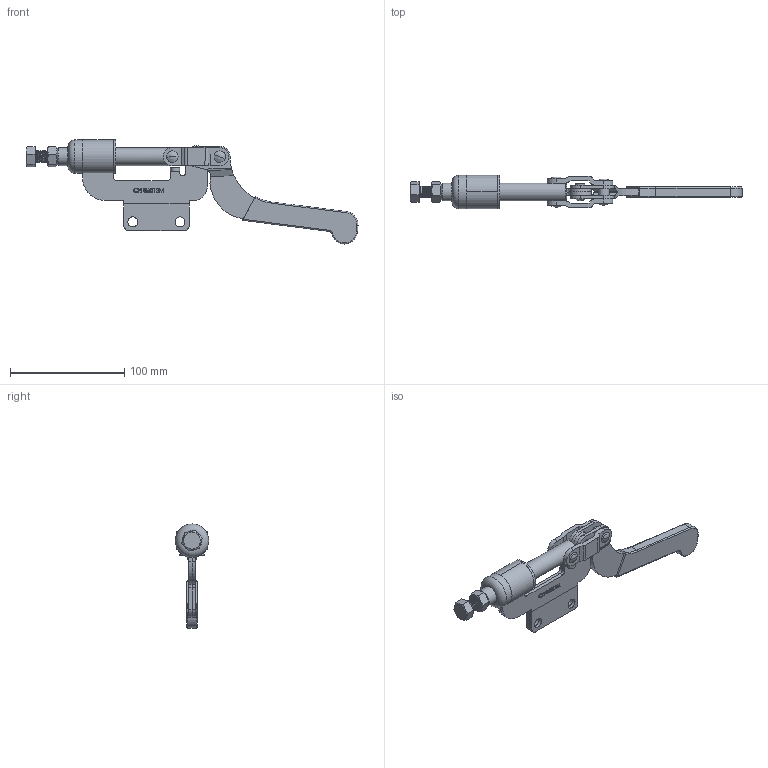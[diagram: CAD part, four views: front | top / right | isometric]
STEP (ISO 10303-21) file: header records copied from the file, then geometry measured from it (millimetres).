
FILE_DESCRIPTION(/* description */ ('STEP AP203'),/* implementation_level */ '2;1');
FILE_NAME(/* name */ 'D:\Vault_2016\Projekty\STRONA\Push-pull clamp\CH-36012M\CH-36012M_OTWARTY.stp',/* time_stamp */ '2019-01-11T11:05:47+01:00',/* author */ ('user'),/* organization */ ('Î¢ÈíÖÐ¹ú'),/* preprocessor_version */ 'ST-DEVELOPER v17.2',/* originating_system */ 'Autodesk Inventor 2019',/* authorisation */ '');
FILE_SCHEMA (('AUTOMOTIVE_DESIGN { 1 0 10303 214 3 1 1 }'));
Length unit declared in the file: millimetre
Products named in the file (13): CH-36012M_OTWARTY; CH-36010M-11; CH-36010M-08; CH-36012M-01 BASE; CH-36010M-03 HANDLE; CH-36010M-02 CREST STALK; CH-36010M-05 LEAD SET; CH-SA-105015 SPINDLE SUPPLIED; CH-36010M-10; M10 Nut; CH-36010M-09; CH-36010M-07; CH-36010M-04 CONNECTING-PLATE
Assembly tree (13 placements, depth 2):
  CH-36012M_OTWARTY
    CH-36010M-04 CONNECTING-PLATE  x2
    CH-36010M-11
    CH-36010M-08
    CH-36012M-01 BASE
    CH-36010M-03 HANDLE
    CH-36010M-02 CREST STALK
    CH-36010M-05 LEAD SET
    CH-SA-105015 SPINDLE SUPPLIED
    CH-36010M-10
    M10 Nut
    CH-36010M-09
    CH-36010M-07
Bounding box: 290.45 x 29.2 x 91.05 mm (x, y, z)
Volume: 104933.7 mm3; surface area: 62559.8 mm2
Topology: 16 solids, 16 shells, 657 faces, 1832 edges, 1235 vertices
Faces by surface type: plane 278, bspline 191, cylinder 148, cone 22, torus 18
Full cylindrical faces by diameter (mm): 1.962 x1, 2.321 x1, 5.8 x3, 6.4 x11, 6.46 x1, 8.5 x21, 8.7 x4, 9.5 x6, 10 x30, 15.6 x2, 23.2 x1, 29.2 x2
Entity records: 40571 total; most frequent: CARTESIAN_POINT 24967, ORIENTED_EDGE 3530, DIRECTION 2499, EDGE_CURVE 1765, VERTEX_POINT 1195, LINE 921, VECTOR 921, AXIS2_PLACEMENT_3D 789
